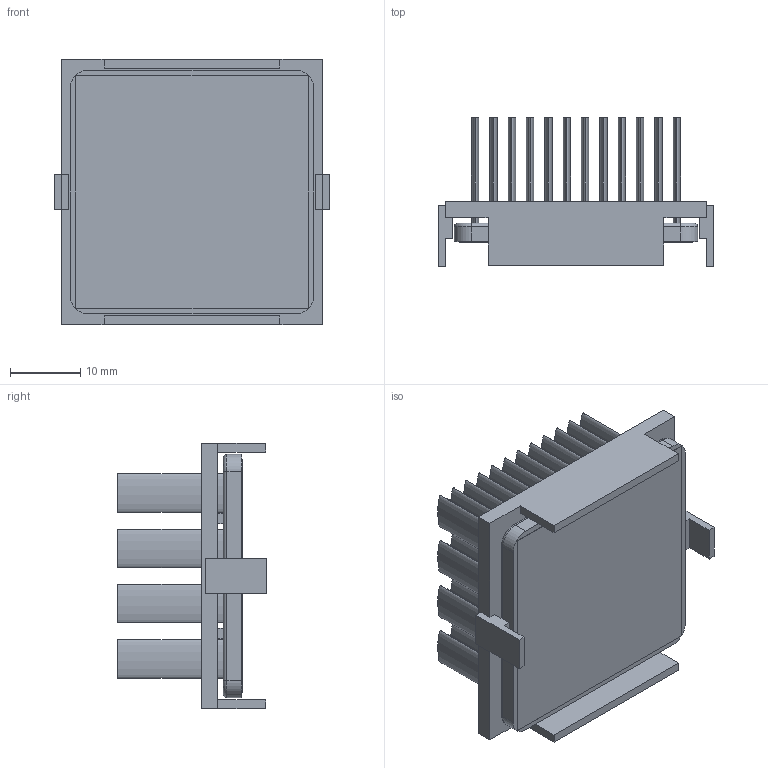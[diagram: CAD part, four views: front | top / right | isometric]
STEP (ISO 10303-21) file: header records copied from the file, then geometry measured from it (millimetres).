
FILE_DESCRIPTION (( 'STEP AP214' ), '1' );
FILE_NAME ('INM35001-18W-2.6Y.STEP', '2023-02-20T22:51:17', ( '' ), ( '' ), 'SwSTEP 2.0', 'SolidWorks 2020', '' );
FILE_SCHEMA (( 'AUTOMOTIVE_DESIGN' ));
Length unit declared in the file: inch
Products named in the file (1): INM35001-18W-2.6Y
Bounding box: 39.2 x 21.1 x 37.7 mm (x, y, z)
Volume: 8310.8 mm3; surface area: 15889 mm2
Topology: 3 solids, 3 shells, 226 faces, 508 edges, 336 vertices
Faces by surface type: plane 118, bspline 96, cylinder 8, torus 4
Entity records: 9460 total; most frequent: CARTESIAN_POINT 2319, ORIENTED_EDGE 1016, DIRECTION 598, EDGE_CURVE 508, VERTEX_POINT 336, VECTOR 296, LINE 296, EDGE_LOOP 276
